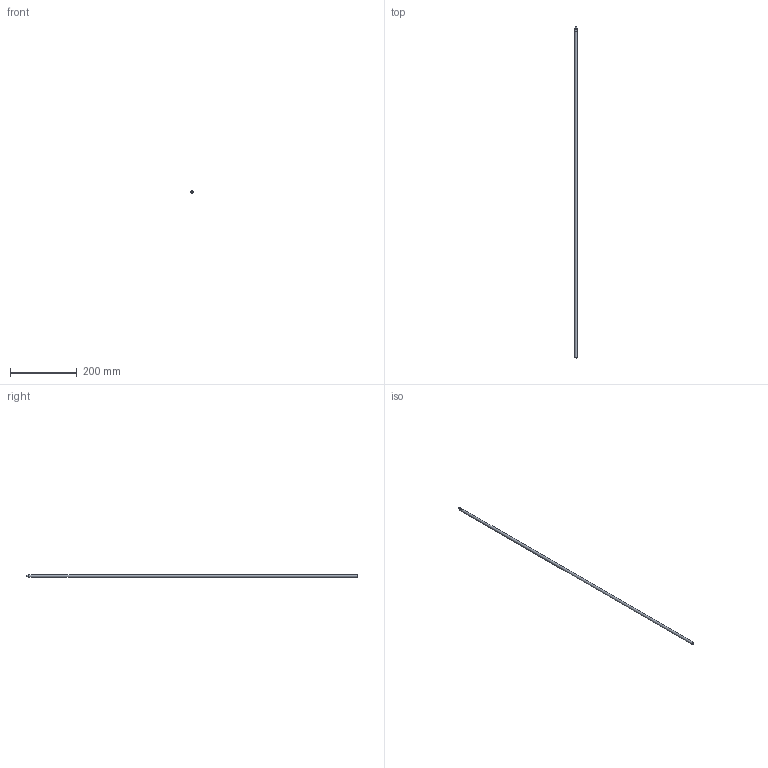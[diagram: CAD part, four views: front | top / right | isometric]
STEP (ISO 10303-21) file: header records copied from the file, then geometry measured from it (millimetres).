
FILE_DESCRIPTION( ( 'STEP AP203' ), '1' );
FILE_NAME( 'p:/temp/worker_33/temp/app_40_02018102213304746516049192d056f_000000_00_00_000000/format_3/E43207.stp', '2018-10-22T11:31:56', ( '' ), ( '' ), ' ', 'PARTsolutions', ' ' );
FILE_SCHEMA( ( 'CONFIG_CONTROL_DESIGN' ) );
Length unit declared in the file: millimetre
Products named in the file (1): _E43207
Bounding box: 8 x 995 x 8 mm (x, y, z)
Volume: 49732.9 mm3; surface area: 25027.2 mm2
Topology: 1 solids, 1 shells, 14 faces, 27 edges, 17 vertices
Faces by surface type: cylinder 6, plane 5, cone 3
Full cylindrical faces by diameter (mm): 5 x1, 8 x1
Entity records: 450 total; most frequent: CARTESIAN_POINT 157, DIRECTION 52, ORIENTED_EDGE 38, AXIS2_PLACEMENT_3D 22, EDGE_LOOP 22, EDGE_CURVE 19, FACE_OUTER_BOUND 16, VERTEX_POINT 15
